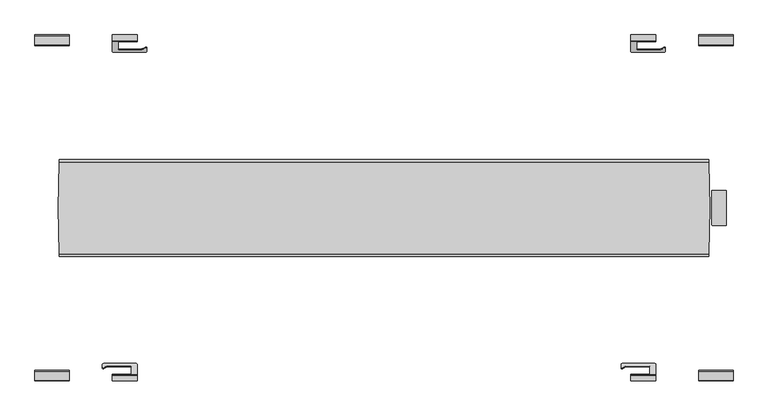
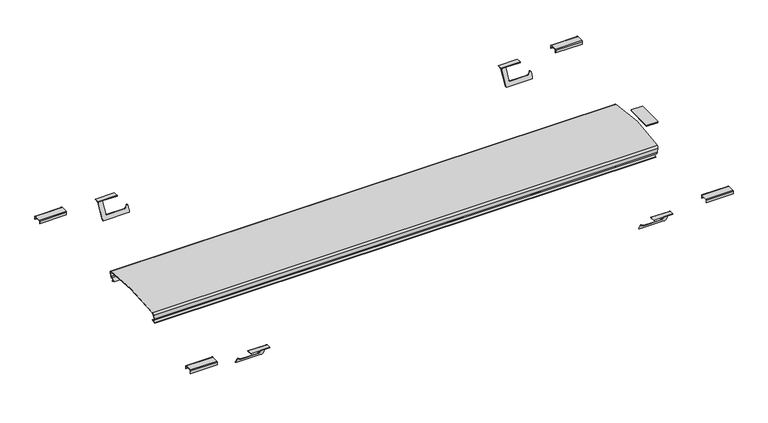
"""IFC4 building model written with IfcOpenShell, lengths in millimetres: light fixture geometry."""

from ifc_helpers import new_model, si_unit, point, frame, frame_2d, origin, origin_with_axes, place, context, project, spatial, polyline, circle_curve, ellipse_curve, trimmed, segment, composite_curve, outline, extrude, source, transform, mapped, element, save
from ifc_brep_helpers import plane_surface, cylinder_surface, revolved_surface, advanced_brep


def light_fixture_a5de5f7d(model_context):
    return source(origin(), model_context, "Body", "SolidModel", [
        extrude(outline(composite_curve([segment(trimmed(circle_curve(frame_2d((593.4860566, 32.8813286)), 0.79375), [point((593.4860566, 33.6750786))], [point((594.2798066, 32.8813286))], False, "CARTESIAN"), True, "CONTINUOUS"), segment(polyline([(594.2798066, 32.8813286), (594.2798066, -25.7936714)]), True, "CONTINUOUS"), segment(trimmed(circle_curve(frame_2d((593.4860566, -25.7936714)), 0.79375), [point((594.2798066, -25.7936714))], [point((593.4860566, -26.5874214))], False, "CARTESIAN"), True, "CONTINUOUS"), segment(polyline([(593.4860566, -26.5874214), (569.7110566, -26.5874214)]), True, "CONTINUOUS"), segment(trimmed(circle_curve(frame_2d((569.7110566, -25.7936714)), 0.79375), [point((569.7110566, -26.5874214))], [point((568.9173066, -25.7936714))], False, "CARTESIAN"), True, "CONTINUOUS"), segment(polyline([(568.9173066, -25.7936714), (568.9173066, 32.8813286)]), True, "CONTINUOUS"), segment(trimmed(circle_curve(frame_2d((569.7110566, 32.8813286)), 0.79375), [point((568.9173066, 32.8813286))], [point((569.7110566, 33.6750786))], False, "CARTESIAN"), True, "CONTINUOUS"), segment(polyline([(569.7110566, 33.6750786), (593.4860566, 33.6750786)]), True, "CONTINUOUS")], self_intersect=False)), origin_with_axes(), (0.0, 0.0, 1.0), 1.984375),
        advanced_brep(
        [(-560.7049594, -78.4782255, -30.5886096), (-561.3946827, -80.5144833, -26.6769947), (-562.975013, -80.5144833, -17.7144962), (-563.7968268, -76.7312326, -13.0537584), (-563.802569, 83.6637386, -13.0211931), (-562.9727304, 87.4855167, -17.7274414), (-561.3743998, 87.4855167, -26.7920248), (-560.6846765, 85.4492589, -30.7036397), (-559.9280968, 79.3213945, -34.9944165), (-559.4545356, 85.9565252, -37.6801157), (-559.2923672, 85.5842575, -38.5998182), (-559.8867318, 77.256535, -35.2290094), (-560.8279867, 84.8801635, -29.8908873), (-561.3743998, 86.4933292, -26.7920248), (-562.9727304, 86.4933292, -17.7274414), (-563.6313431, 83.4601226, -13.9922629), (-563.6256156, -76.5272223, -14.0247455), (-562.975013, -79.5222958, -17.7144962), (-561.3946827, -79.5222958, -26.6769947), (-560.8482696, -77.9091301, -29.7758572), (-559.8867318, -70.1212216, -35.2290094), (-559.2923672, -78.4489441, -38.5998182), (-559.4545356, -78.8212117, -37.6801157), (-559.9280968, -72.186081, -34.9944165), (561.3946827, -80.5144833, -26.6769947), (560.7049594, -78.4782255, -30.5886096), (559.9280968, -72.186081, -34.9944165), (559.4545356, -78.8212117, -37.6801157), (559.2923672, -78.4489441, -38.5998182), (559.8867318, -70.1212216, -35.2290094), (560.8482696, -77.9091301, -29.7758572), (561.3946827, -79.5222958, -26.6769947), (562.975013, -79.5222958, -17.7144962), (563.6256156, -76.5272223, -14.0247455), (563.6313431, 83.4601226, -13.9922629), (562.9727304, 86.4933292, -17.7274414), (561.3743998, 86.4933292, -26.7920248), (560.8279867, 84.8801635, -29.8908873), (559.8867318, 77.256535, -35.2290094), (559.2923672, 85.5842575, -38.5998182), (559.4545356, 85.9565252, -37.6801157), (559.9280968, 79.3213945, -34.9944165), (560.6846765, 85.4492589, -30.7036397), (561.3743998, 87.4855167, -26.7920248), (562.9727304, 87.4855167, -17.7274414), (563.802569, 83.6637386, -13.0211931), (563.7968268, -76.7312326, -13.0537584), (562.975013, -80.5144833, -17.7144962)],
        [
            (0, 1, ellipse_curve(frame((-561.3946827, -75.7392833, -26.6769947), z_axis=(-0.9848077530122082, 0.0, -0.1736481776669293), x_axis=(0.1736481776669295, 0.0, -0.9848077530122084)), 4.8488652, 4.7752)),
            (1, 2),
            (2, 3, ellipse_curve(frame((-562.975013, -75.7519833, -17.7144962), z_axis=(-0.9848077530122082, 0.0, -0.1736481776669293), x_axis=(0.1736481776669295, 0.0, -0.9848077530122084)), 4.8359692, 4.7625)),
            (3, 4, ellipse_curve(frame((-496.4277167, 3.5438286, -395.1229676), z_axis=(-0.9848077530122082, 0.0, -0.1736481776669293), x_axis=(0.1736481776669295, 0.0, -0.9848077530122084)), 396.4340014, 390.4112781)),
            (4, 5, ellipse_curve(frame((-562.9727304, 82.6769225, -17.7274414), z_axis=(-0.9848077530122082, 0.0, -0.1736481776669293), x_axis=(0.1736481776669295, 0.0, -0.9848077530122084)), 4.8827746, 4.8085943)),
            (5, 6),
            (6, 7, ellipse_curve(frame((-561.3743998, 82.7103167, -26.7920248), z_axis=(-0.9848077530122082, 0.0, -0.1736481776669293), x_axis=(0.1736481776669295, 0.0, -0.9848077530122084)), 4.8488652, 4.7752)),
            (7, 8),
            (8, 9),
            (9, 10),
            (10, 11),
            (11, 12),
            (12, 13, ellipse_curve(frame((-561.3743998, 82.7103167, -26.7920248), z_axis=(0.9848077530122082, 0.0, 0.1736481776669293), x_axis=(-0.1736481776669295, 0.0, 0.9848077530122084)), 3.8413716, 3.7830125)),
            (13, 14),
            (14, 15, ellipse_curve(frame((-562.9727304, 82.6769225, -17.7274414), z_axis=(0.9848077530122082, 0.0, 0.1736481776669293), x_axis=(-0.1736481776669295, 0.0, 0.9848077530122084)), 3.875281, 3.8164068)),
            (15, 16, ellipse_curve(frame((-496.4277167, 3.5438286, -395.1229676), z_axis=(0.9848077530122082, 0.0, 0.1736481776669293), x_axis=(-0.1736481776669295, 0.0, 0.9848077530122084)), 395.4265078, 389.4190906)),
            (16, 17, ellipse_curve(frame((-562.975013, -75.7519833, -17.7144962), z_axis=(0.9848077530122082, 0.0, 0.1736481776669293), x_axis=(-0.1736481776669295, 0.0, 0.9848077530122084)), 3.8284756, 3.7703125)),
            (17, 18),
            (18, 19, ellipse_curve(frame((-561.3946827, -75.7392833, -26.6769947), z_axis=(0.9848077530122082, 0.0, 0.1736481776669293), x_axis=(-0.1736481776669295, 0.0, 0.9848077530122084)), 3.8413716, 3.7830125)),
            (19, 20),
            (20, 21),
            (21, 22),
            (22, 23),
            (23, 0),
            (24, 25, ellipse_curve(frame((561.3946827, -75.7392833, -26.6769947), z_axis=(0.9848077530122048, 0.0, -0.17364817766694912), x_axis=(0.17364817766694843, 0.0, 0.9848077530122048)), 4.8488652, 4.7752)),
            (25, 26),
            (26, 27),
            (27, 28),
            (28, 29),
            (29, 30),
            (30, 31, ellipse_curve(frame((561.3946827, -75.7392833, -26.6769947), z_axis=(-0.9848077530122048, 0.0, 0.17364817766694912), x_axis=(-0.17364817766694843, 0.0, -0.9848077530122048)), 3.8413716, 3.7830125)),
            (31, 32),
            (32, 33, ellipse_curve(frame((562.975013, -75.7519833, -17.7144962), z_axis=(-0.9848077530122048, 0.0, 0.17364817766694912), x_axis=(-0.17364817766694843, 0.0, -0.9848077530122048)), 3.8284756, 3.7703125)),
            (33, 34, ellipse_curve(frame((496.4277167, 3.5438286, -395.1229676), z_axis=(-0.9848077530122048, 0.0, 0.17364817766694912), x_axis=(-0.17364817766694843, 0.0, -0.9848077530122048)), 395.4265078, 389.4190906)),
            (34, 35, ellipse_curve(frame((562.9727304, 82.6769225, -17.7274414), z_axis=(-0.9848077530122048, 0.0, 0.17364817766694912), x_axis=(-0.17364817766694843, 0.0, -0.9848077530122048)), 3.875281, 3.8164068)),
            (35, 36),
            (36, 37, ellipse_curve(frame((561.3743998, 82.7103167, -26.7920248), z_axis=(-0.9848077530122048, 0.0, 0.17364817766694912), x_axis=(-0.17364817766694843, 0.0, -0.9848077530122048)), 3.8413716, 3.7830125)),
            (37, 38),
            (38, 39),
            (39, 40),
            (40, 41),
            (41, 42),
            (42, 43, ellipse_curve(frame((561.3743998, 82.7103167, -26.7920248), z_axis=(0.9848077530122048, 0.0, -0.17364817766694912), x_axis=(0.17364817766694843, 0.0, 0.9848077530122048)), 4.8488652, 4.7752)),
            (43, 44),
            (44, 45, ellipse_curve(frame((562.9727304, 82.6769225, -17.7274414), z_axis=(0.9848077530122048, 0.0, -0.17364817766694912), x_axis=(0.17364817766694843, 0.0, 0.9848077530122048)), 4.8827746, 4.8085943)),
            (45, 46, ellipse_curve(frame((496.4277167, 3.5438286, -395.1229676), z_axis=(0.9848077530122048, 0.0, -0.17364817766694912), x_axis=(0.17364817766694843, 0.0, 0.9848077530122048)), 396.4340014, 390.4112781)),
            (46, 47, ellipse_curve(frame((562.975013, -75.7519833, -17.7144962), z_axis=(0.9848077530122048, 0.0, -0.17364817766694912), x_axis=(0.17364817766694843, 0.0, 0.9848077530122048)), 4.8359692, 4.7625)),
            (47, 24),
            (24, 1),
            (0, 25),
            (23, 26),
            (22, 27),
            (21, 28),
            (20, 29),
            (19, 30),
            (18, 31),
            (17, 32),
            (16, 33),
            (15, 34),
            (14, 35),
            (13, 36),
            (12, 37),
            (11, 38),
            (10, 39),
            (9, 40),
            (8, 41),
            (7, 42),
            (6, 43),
            (5, 44),
            (4, 45),
            (3, 46),
            (2, 47),
        ],
        [
            plane_surface(frame((-553.5196929, -297.9323433, -71.3382813), z_axis=(-0.9848077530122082, 0.0, -0.1736481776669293), x_axis=(0.0, 1.0, 0.0))),
            plane_surface(frame((573.6738668, -297.9323433, 42.9617187), z_axis=(0.9848077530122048, 0.0, -0.17364817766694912), x_axis=(0.0, 1.0, 0.0))),
            cylinder_surface(frame((-606.5738281, -75.7392833, -26.6769947), z_axis=(1.0, 0.0, 0.0), x_axis=(0.0, 1.0, 0.0)), 4.7752),
            plane_surface(frame((566.0976563, -78.4782255, -30.5886096), z_axis=(0.0, -0.5735764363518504, -0.8191520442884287), x_axis=(-1.0, 0.0, 0.0))),
            plane_surface(frame((566.0976563, -72.186081, -34.9944165), z_axis=(0.0, -0.3751988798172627, 0.9269443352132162), x_axis=(-1.0, 0.0, 0.0))),
            plane_surface(frame((566.0976563, -78.8212117, -37.6801157), z_axis=(0.0, -0.9269443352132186, -0.37519887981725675), x_axis=(-1.0, 0.0, 0.0))),
            plane_surface(frame((566.0976563, -78.4489441, -38.5998182), z_axis=(0.0, 0.3751988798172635, -0.9269443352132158), x_axis=(-1.0, 0.0, 0.0))),
            plane_surface(frame((566.0976563, -70.1212216, -35.2290094), z_axis=(0.0, 0.5735764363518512, 0.8191520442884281), x_axis=(-1.0, 0.0, 0.0))),
            revolved_surface(polyline([(-562.0617298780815, -71.9562708, -26.6769947), (562.0617298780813, -71.9562708, -26.6769947)]), (-606.5738281, -75.7392833, -26.6769947), (-1.0, 0.0, 0.0)),
            plane_surface(frame((566.0976563, -79.5222958, -26.6769947), z_axis=(0.0, 1.0, 0.0), x_axis=(-1.0, 0.0, 0.0))),
            revolved_surface(polyline([(-563.6398208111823, -71.9816708, -17.7144962), (563.6398208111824, -71.9816708, -17.7144962)]), (-606.5738281, -75.7519833, -17.7144962), (-1.0, 0.0, 0.0)),
            revolved_surface(polyline([(-565.0928091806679, 392.9629192, -395.1229676), (565.0928091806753, 392.9629192, -395.1229676)]), (-606.5738281, 3.5438286, -395.1229676), (-1.0, 0.0, 0.0)),
            revolved_surface(polyline([(-563.6456658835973, 86.4933293, -17.7274414), (563.6456658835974, 86.4933293, -17.7274414)]), (-606.5738281, 82.6769225, -17.7274414), (-1.0, 0.0, 0.0)),
            plane_surface(frame((566.0976563, 86.4933292, -17.7274414), z_axis=(0.0, -1.0, 1.0247541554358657e-12), x_axis=(-1.0, 0.0, 0.0))),
            revolved_surface(polyline([(-562.0414469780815, 86.4933292, -26.7920248), (562.0414469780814, 86.4933292, -26.7920248)]), (-606.5738281, 82.7103167, -26.7920248), (-1.0, 0.0, 0.0)),
            plane_surface(frame((566.0976563, 84.8801635, -29.8908873), z_axis=(0.0, -0.5735764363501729, 0.8191520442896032), x_axis=(-1.0, 0.0, 0.0))),
            plane_surface(frame((566.0976563, 77.256535, -35.2290094), z_axis=(0.0, -0.37519887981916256, -0.9269443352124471), x_axis=(-1.0, 0.0, 0.0))),
            plane_surface(frame((566.0976563, 85.5842575, -38.5998182), z_axis=(0.0, 0.9269443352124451, -0.3751988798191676), x_axis=(-1.0, 0.0, 0.0))),
            plane_surface(frame((566.0976563, 85.9565252, -37.6801157), z_axis=(0.0, 0.37519887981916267, 0.9269443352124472), x_axis=(-1.0, 0.0, 0.0))),
            plane_surface(frame((566.0976563, 79.3213945, -34.9944165), z_axis=(0.0, 0.5735764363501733, -0.819152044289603), x_axis=(-1.0, 0.0, 0.0))),
            cylinder_surface(frame((-606.5738281, 82.7103167, -26.7920248), z_axis=(1.0, 0.0, 0.0), x_axis=(0.0, 1.0, 0.0)), 4.7752),
            plane_surface(frame((566.0976563, 87.4855167, -26.7920248), z_axis=(0.0, 1.0, -1.0247541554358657e-12), x_axis=(-1.0, 0.0, 0.0))),
            cylinder_surface(frame((-606.5738281, 82.6769225, -17.7274414), z_axis=(1.0, 0.0, 0.0), x_axis=(0.0, 1.0, 0.0)), 4.8085943),
            cylinder_surface(frame((-606.5738281, 3.5438286, -395.1229676), z_axis=(1.0, 0.0, 0.0), x_axis=(0.0, 1.0, 0.0)), 390.4112781),
            cylinder_surface(frame((-606.5738281, -75.7519833, -17.7144962), z_axis=(1.0, 0.0, 0.0), x_axis=(0.0, 1.0, 0.0)), 4.7625),
            plane_surface(frame((566.0976563, -80.5144833, -17.7144962), z_axis=(0.0, -1.0, 0.0), x_axis=(-1.0, 0.0, 0.0))),
        ],
        [
            (0, [[1, 2, 3, 4, 5, 6, 7, 8, 9, 10, 11, 12, 13, 14, 15, 16, 17, 18, 19, 20, 21, 22, 23, 24]]),
            (1, [[25, 26, 27, 28, 29, 30, 31, 32, 33, 34, 35, 36, 37, 38, 39, 40, 41, 42, 43, 44, 45, 46, 47, 48]]),
            (2, [[49, -1, 50, -25]]),
            (3, [[-50, -24, 51, -26]]),
            (4, [[-51, -23, 52, -27]]),
            (5, [[-52, -22, 53, -28]]),
            (6, [[-53, -21, 54, -29]]),
            (7, [[-54, -20, 55, -30]]),
            (8, [[-55, -19, 56, -31]]),
            (9, [[-56, -18, 57, -32]]),
            (10, [[-57, -17, 58, -33]]),
            (11, [[-58, -16, 59, -34]]),
            (12, [[-59, -15, 60, -35]]),
            (13, [[-60, -14, 61, -36]]),
            (14, [[-61, -13, 62, -37]]),
            (15, [[-62, -12, 63, -38]]),
            (16, [[-63, -11, 64, -39]]),
            (17, [[-64, -10, 65, -40]]),
            (18, [[-65, -9, 66, -41]]),
            (19, [[-66, -8, 67, -42]]),
            (20, [[-67, -7, 68, -43]]),
            (21, [[-68, -6, 69, -44]]),
            (22, [[-69, -5, 70, -45]]),
            (23, [[-70, -4, 71, -46]]),
            (24, [[-71, -3, 72, -47]]),
            (25, [[-49, -48, -72, -2]]),
        ],
    ),
        advanced_brep(
        [(478.8917139, 279.7314152, -33.398086), (478.8917139, 278.8148717, -33.398086), (483.1855578, 279.9926649, -31.3580883), (483.1855578, 280.9092084, -31.3580883), (485.5308255, 281.6543404, -28.4799818), (485.5308255, 282.570884, -28.4799818), (488.4270722, 281.0593198, -29.5105878), (488.4270722, 281.9758633, -29.5105878), (488.4270722, 275.6987473, -38.7953718), (488.4270722, 276.6152908, -38.7953718), (486.5361116, 273.89967, -41.911465), (484.914104, 274.5870777, -42.30834), (428.4270722, 275.3427686, -39.4119449), (428.4270722, 276.2593122, -39.4119449), (431.3234673, 274.5870777, -42.30834), (429.8600795, 273.89967, -41.911465), (428.4270722, 292.9028585, -8.996977), (428.4270722, 293.9152023, -8.4125), (428.4270722, 304.2262505, -8.4125), (428.4270722, 304.2262505, -9.20625), (428.4270722, 293.6985782, -9.20625), (471.4270722, 304.2262505, -8.4125), (471.4270722, 293.9152023, -8.4125), (471.4270722, 292.9028585, -8.996977), (471.4270722, 292.7820347, -9.20625), (471.4270722, 304.2262505, -9.20625), (438.4270722, 293.6985782, -9.20625), (438.4270722, 292.7820347, -9.20625), (438.4270722, 279.7314152, -31.810586), (438.4270722, 280.6479588, -31.810586), (440.0145722, 278.8148717, -33.398086), (440.0145722, 279.7314152, -33.398086)],
        [
            (0, 1),
            (1, 2, ellipse_curve(frame((478.8917139, 282.012757, -27.8591861), z_axis=(0.0, -0.866025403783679, 0.5000000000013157), x_axis=(0.0, -0.5000000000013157, -0.866025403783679)), 6.3957706, 5.5388999)),
            (2, 3),
            (3, 0, ellipse_curve(frame((478.8917139, 282.9293006, -27.8591861), z_axis=(0.0, 0.8660254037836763, -0.5000000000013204), x_axis=(0.0, -0.5000000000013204, -0.8660254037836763)), 6.3957706, 5.5388999)),
            (2, 4),
            (4, 5),
            (5, 3),
            (4, 6, ellipse_curve(frame((486.7955825, 281.0593198, -29.5105878), z_axis=(0.0, 0.866025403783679, -0.5000000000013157), x_axis=(0.0, 0.5000000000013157, 0.866025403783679)), 1.8838821, 1.6314898)),
            (6, 7),
            (7, 5, ellipse_curve(frame((486.7955825, 281.9758633, -29.5105878), z_axis=(0.0, -0.8660254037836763, 0.5000000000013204), x_axis=(0.0, 0.5000000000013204, 0.8660254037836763)), 1.8838821, 1.6314898)),
            (6, 8),
            (8, 9),
            (9, 7),
            (8, 10, ellipse_curve(frame((484.914104, 275.6987473, -38.7953718), z_axis=(0.0, 0.866025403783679, -0.5000000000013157), x_axis=(0.0, 0.5000000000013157, 0.866025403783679)), 4.0564263, 3.5129682)),
            (10, 11, ellipse_curve(frame((484.914104, 268.5024382, -38.7953718), z_axis=(0.0, 0.5000000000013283, 0.8660254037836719), x_axis=(0.0, 0.8660254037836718, -0.5000000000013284)), 7.0259365, 3.5129682)),
            (11, 9, ellipse_curve(frame((484.914104, 276.6152908, -38.7953718), z_axis=(0.0, -0.8660254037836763, 0.5000000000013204), x_axis=(0.0, 0.5000000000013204, 0.8660254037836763)), 4.0564263, 3.5129682)),
            (12, 13),
            (13, 14, ellipse_curve(frame((431.3234673, 276.2593122, -39.4119449), z_axis=(0.0, -0.8660254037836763, 0.5000000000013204), x_axis=(0.0, 0.5000000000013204, 0.8660254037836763)), 3.344469, 2.8963951)),
            (14, 15, ellipse_curve(frame((431.3234673, 269.5703742, -39.4119449), z_axis=(0.0, 0.5000000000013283, 0.8660254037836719), x_axis=(0.0, 0.8660254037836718, -0.5000000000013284)), 5.7927902, 2.8963951)),
            (15, 12, ellipse_curve(frame((431.3234673, 275.3427686, -39.4119449), z_axis=(0.0, 0.866025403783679, -0.5000000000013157), x_axis=(0.0, 0.5000000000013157, 0.866025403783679)), 3.344469, 2.8963951)),
            (12, 16),
            (16, 17, circle_curve(frame((428.4270722, 293.9152023, -9.5814539), z_axis=(-1.0, 0.0, 0.0), x_axis=(0.0, 1.0, 0.0)), 1.1689539)),
            (17, 18),
            (18, 19),
            (19, 20),
            (20, 13),
            (21, 22),
            (22, 23, circle_curve(frame((471.4270722, 293.9152023, -9.5814539), z_axis=(1.0, 0.0, 0.0), x_axis=(0.0, 1.0, 0.0)), 1.1689539)),
            (23, 24),
            (24, 25),
            (25, 21),
            (26, 27),
            (27, 28),
            (28, 29),
            (29, 26),
            (28, 30, ellipse_curve(frame((440.0145722, 279.7314152, -31.810586), z_axis=(0.0, -0.866025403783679, 0.5000000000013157), x_axis=(0.0, -0.5000000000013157, -0.866025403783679)), 1.8330871, 1.5875)),
            (30, 31),
            (31, 29, ellipse_curve(frame((440.0145722, 280.6479588, -31.810586), z_axis=(0.0, 0.8660254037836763, -0.5000000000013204), x_axis=(0.0, -0.5000000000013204, -0.8660254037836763)), 1.8330871, 1.5875)),
            (0, 31),
            (30, 1),
            (21, 18),
            (17, 22),
            (16, 23),
            (15, 10),
            (27, 24),
            (14, 11),
            (20, 26),
            (19, 25),
        ],
        [
            revolved_surface(polyline([(484.4306138, 278.8148716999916, -27.8591861), (484.4306138, 286.12718590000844, -27.8591861)]), (478.8917139, 3.5438286, -27.8591861), (0.0, -1.0, 0.0)),
            plane_surface(frame((483.1855578, 3.5438286, -31.3580883), z_axis=(-0.7752160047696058, 0.0, 0.631696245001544), x_axis=(0.0, 1.0, 0.0))),
            cylinder_surface(frame((486.7955825, 3.5438286, -29.5105878), z_axis=(0.0, 1.0, 0.0), x_axis=(1.0, 0.0, 0.0)), 1.6314898),
            plane_surface(frame((488.4270722, 3.5438286, -29.5105878), z_axis=(1.0, 0.0, 0.0), x_axis=(0.0, 1.0, 0.0))),
            cylinder_surface(frame((484.914104, 3.5438286, -38.7953718), z_axis=(0.0, 1.0, 0.0), x_axis=(1.0, 0.0, 0.0)), 3.5129682),
            cylinder_surface(frame((431.3234673, 3.5438286, -39.4119449), z_axis=(0.0, 1.0, 0.0), x_axis=(1.0, 0.0, 0.0)), 2.8963951),
            plane_surface(frame((428.4270722, 3.5438286, -39.4119449), z_axis=(-1.0, 0.0, 0.0), x_axis=(0.0, 1.0, 0.0))),
            plane_surface(frame((471.4270722, 3.5438286, -5.4585728), z_axis=(1.0, 0.0, 0.0), x_axis=(0.0, 1.0, 0.0))),
            plane_surface(frame((438.4270722, 3.5438286, -9.20625), z_axis=(1.0, 0.0, 0.0), x_axis=(0.0, 1.0, 0.0))),
            revolved_surface(polyline([(441.60207219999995, 278.8148716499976, -31.810586), (441.60207219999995, 281.56450235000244, -31.810586)]), (440.0145722, 3.5438286, -31.810586), (0.0, -1.0, 0.0)),
            plane_surface(frame((440.0145722, 3.5438286, -33.398086), z_axis=(0.0, 0.0, 1.0), x_axis=(0.0, 1.0, 0.0))),
            plane_surface(frame((491.8820313, 304.2262505, -8.4125), z_axis=(0.0, 0.0, 1.0), x_axis=(-1.0, 0.0, 0.0))),
            cylinder_surface(frame((408.446111, 293.9152023, -9.5814539), z_axis=(1.0, 0.0, 0.0), x_axis=(0.0, 1.0, 0.0)), 1.1689539),
            plane_surface(frame((491.8820313, 292.9028585, -8.996977), z_axis=(0.0, -0.866025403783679, 0.5000000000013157), x_axis=(-1.0, 0.0, 0.0))),
            plane_surface(frame((491.8820313, 273.89967, -41.911465), z_axis=(0.0, -0.5000000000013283, -0.8660254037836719), x_axis=(-1.0, 0.0, 0.0))),
            plane_surface(frame((491.8820313, 274.5870777, -42.30834), z_axis=(0.0, 0.8660254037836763, -0.5000000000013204), x_axis=(-1.0, 0.0, 0.0))),
            plane_surface(frame((491.8820313, 293.6985782, -9.20625), z_axis=(0.0, 0.0, -1.0), x_axis=(-1.0, 0.0, 0.0))),
            plane_surface(frame((491.8820313, 304.2262505, -9.20625), z_axis=(0.0, 1.0, 0.0), x_axis=(-1.0, 0.0, 0.0))),
        ],
        [
            (0, [[1, 2, 3, 4]]),
            (1, [[-3, 5, 6, 7]]),
            (2, [[-6, 8, 9, 10]]),
            (3, [[-9, 11, 12, 13]]),
            (4, [[-12, 14, 15, 16]]),
            (5, [[17, 18, 19, 20]]),
            (6, [[-17, 21, 22, 23, 24, 25, 26]]),
            (7, [[27, 28, 29, 30, 31]]),
            (8, [[32, 33, 34, 35]]),
            (9, [[-34, 36, 37, 38]]),
            (10, [[-1, 39, -37, 40]]),
            (11, [[41, -23, 42, -27]]),
            (12, [[-42, -22, 43, -28]]),
            (13, [[-43, -21, -20, 44, -14, -11, -8, -5, -2, -40, -36, -33, 45, -29]]),
            (14, [[-44, -19, 46, -15]]),
            (15, [[-46, -18, -26, 47, -35, -38, -39, -4, -7, -10, -13, -16]]),
            (16, [[-47, -25, 48, -30, -45, -32]]),
            (17, [[-41, -31, -48, -24]]),
        ],
    ),
        advanced_brep(
        [(471.4270722, -297.1385933, -8.4125), (428.4270722, -297.1385933, -8.4125), (428.4270722, -297.1385933, -9.20625), (471.4270722, -297.1385933, -9.20625), (428.4270722, -285.6943775, -9.20625), (461.4270722, -285.6943775, -9.20625), (461.4270722, -286.610921, -9.20625), (471.4270722, -286.610921, -9.20625), (461.4270722, -273.5603016, -31.810586), (459.8395722, -272.643758, -33.398086), (420.9624305, -272.643758, -33.398086), (416.6685867, -273.8215512, -31.3580883), (414.323319, -275.4832268, -28.4799818), (411.4270722, -274.8882061, -29.5105878), (411.4270722, -269.5276336, -38.7953718), (414.9400405, -267.4994205, -42.30834), (468.5306771, -267.4994205, -42.30834), (471.4270722, -269.171655, -39.4119449), (413.3180328, -266.8120128, -41.911465), (469.9940649, -266.8120128, -41.911465), (411.4270722, -268.6110901, -38.7953718), (411.4270722, -273.9716626, -29.5105878), (414.323319, -274.5666832, -28.4799818), (416.6685867, -272.9050076, -31.3580883), (420.9624305, -271.7272145, -33.398086), (459.8395722, -271.7272145, -33.398086), (461.4270722, -272.643758, -31.810586), (428.4270722, -285.8152013, -8.996977), (471.4270722, -285.8152013, -8.996977), (471.4270722, -268.2551114, -39.4119449), (428.4270722, -286.8275451, -8.4125), (471.4270722, -286.8275451, -8.4125)],
        [
            (0, 1),
            (1, 2),
            (2, 3),
            (3, 0),
            (4, 5),
            (5, 6),
            (6, 7),
            (7, 3),
            (2, 4),
            (6, 8),
            (8, 9, ellipse_curve(frame((459.8395722, -273.5603016, -31.810586), z_axis=(0.0, 0.86602540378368, 0.5000000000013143), x_axis=(0.0, -0.500000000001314, 0.8660254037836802)), 1.8330871, 1.5875)),
            (9, 10),
            (10, 11, ellipse_curve(frame((420.9624305, -275.8416433, -27.8591861), z_axis=(0.0, 0.86602540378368, 0.5000000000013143), x_axis=(0.0, -0.500000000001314, 0.8660254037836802)), 6.3957706, 5.5388999)),
            (11, 12),
            (12, 13, ellipse_curve(frame((413.058562, -274.8882061, -29.5105878), z_axis=(0.0, -0.86602540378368, -0.5000000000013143), x_axis=(0.0, 0.500000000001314, -0.8660254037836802)), 1.8838821, 1.6314898)),
            (13, 14),
            (14, 15, ellipse_curve(frame((414.9400405, -269.5276336, -38.7953718), z_axis=(0.0, -0.86602540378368, -0.5000000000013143), x_axis=(0.0, 0.500000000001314, -0.8660254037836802)), 4.0564263, 3.5129682)),
            (15, 16),
            (16, 17, ellipse_curve(frame((468.5306771, -269.171655, -39.4119449), z_axis=(0.0, -0.86602540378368, -0.5000000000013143), x_axis=(0.0, 0.500000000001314, -0.8660254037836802)), 3.344469, 2.8963951)),
            (17, 7),
            (15, 18, ellipse_curve(frame((414.9400405, -261.414781, -38.7953718), z_axis=(0.0, 0.5000000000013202, -0.8660254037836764), x_axis=(0.0, 0.8660254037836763, 0.50000000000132)), 7.0259365, 3.5129682)),
            (18, 19),
            (19, 16, ellipse_curve(frame((468.5306771, -262.482717, -39.4119449), z_axis=(0.0, 0.5000000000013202, -0.8660254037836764), x_axis=(0.0, 0.8660254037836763, 0.50000000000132)), 5.7927902, 2.8963951)),
            (18, 20, ellipse_curve(frame((414.9400405, -268.6110901, -38.7953718), z_axis=(0.0, 0.8660254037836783, 0.500000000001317), x_axis=(0.0, 0.500000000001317, -0.8660254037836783)), 4.0564263, 3.5129682)),
            (20, 21),
            (21, 22, ellipse_curve(frame((413.058562, -273.9716626, -29.5105878), z_axis=(0.0, 0.8660254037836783, 0.500000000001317), x_axis=(0.0, 0.500000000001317, -0.8660254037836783)), 1.8838821, 1.6314898)),
            (22, 23),
            (23, 24, ellipse_curve(frame((420.9624305, -274.9250998, -27.8591861), z_axis=(0.0, -0.8660254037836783, -0.500000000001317), x_axis=(0.0, -0.500000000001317, 0.8660254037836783)), 6.3957706, 5.5388999)),
            (24, 25),
            (25, 26, ellipse_curve(frame((459.8395722, -272.643758, -31.810586), z_axis=(0.0, -0.8660254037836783, -0.500000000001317), x_axis=(0.0, -0.500000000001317, 0.8660254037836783)), 1.8330871, 1.5875)),
            (26, 5),
            (4, 27),
            (27, 28),
            (28, 29),
            (29, 19, ellipse_curve(frame((468.5306771, -268.2551114, -39.4119449), z_axis=(0.0, 0.8660254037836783, 0.500000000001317), x_axis=(0.0, 0.500000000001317, -0.8660254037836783)), 3.344469, 2.8963951)),
            (27, 30, circle_curve(frame((428.4270722, -286.8275451, -9.5814539), z_axis=(1.0, 0.0, 0.0), x_axis=(0.0, 1.0, 0.0)), 1.1689539)),
            (30, 31),
            (31, 28, circle_curve(frame((471.4270722, -286.8275451, -9.5814539), z_axis=(-1.0, 0.0, 0.0), x_axis=(0.0, 1.0, 0.0)), 1.1689539)),
            (0, 31),
            (30, 1),
            (24, 10),
            (9, 25),
            (8, 26),
            (17, 29),
            (14, 20),
            (13, 21),
            (12, 22),
            (11, 23),
        ],
        [
            plane_surface(frame((491.8820313, -297.1385933, -8.4125), z_axis=(0.0, -1.0, 0.0), x_axis=(-1.0, 0.0, 0.0))),
            plane_surface(frame((491.8820313, -297.1385933, -9.20625), z_axis=(0.0, 0.0, -1.0), x_axis=(-1.0, 0.0, 0.0))),
            plane_surface(frame((491.8820313, -286.610921, -9.20625), z_axis=(0.0, -0.86602540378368, -0.5000000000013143), x_axis=(-1.0, 0.0, 0.0))),
            plane_surface(frame((491.8820313, -267.4994205, -42.30834), z_axis=(0.0, 0.5000000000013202, -0.8660254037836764), x_axis=(-1.0, 0.0, 0.0))),
            plane_surface(frame((491.8820313, -266.8120128, -41.911465), z_axis=(0.0, 0.8660254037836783, 0.500000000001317), x_axis=(-1.0, 0.0, 0.0))),
            cylinder_surface(frame((900.1843365, -286.8275451, -9.5814539), z_axis=(1.0, 0.0, 0.0), x_axis=(0.0, 1.0, 0.0)), 1.1689539),
            plane_surface(frame((491.8820313, -286.8275451, -8.4125), z_axis=(0.0, 0.0, 1.0), x_axis=(-1.0, 0.0, 0.0))),
            plane_surface(frame((420.9624305, -297.9323433, -33.398086), z_axis=(0.0, 0.0, 1.0), x_axis=(0.0, 1.0, 0.0))),
            revolved_surface(polyline([(461.4270722, -274.4768451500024, -31.810586), (461.4270722, -271.7272144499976, -31.810586)]), (459.8395722, 3.5438286, -31.810586), (0.0, -1.0, 0.0)),
            plane_surface(frame((461.4270722, -297.9323433, -31.810586), z_axis=(-1.0, 0.0, 0.0), x_axis=(0.0, 1.0, 0.0))),
            plane_surface(frame((428.4270722, -297.9323433, -9.20625), z_axis=(-1.0, 0.0, 0.0), x_axis=(0.0, 1.0, 0.0))),
            plane_surface(frame((471.4270722, -297.9323433, -5.4585728), z_axis=(1.0, 0.0, 0.0), x_axis=(0.0, 1.0, 0.0))),
            cylinder_surface(frame((468.5306771, 3.5438286, -39.4119449), z_axis=(0.0, 1.0, 0.0), x_axis=(1.0, 0.0, 0.0)), 2.8963951),
            cylinder_surface(frame((414.9400405, 3.5438286, -38.7953718), z_axis=(0.0, 1.0, 0.0), x_axis=(1.0, 0.0, 0.0)), 3.5129682),
            plane_surface(frame((411.4270722, -297.9323433, -38.7953718), z_axis=(-1.0, 0.0, 0.0), x_axis=(0.0, 1.0, 0.0))),
            cylinder_surface(frame((413.058562, 3.5438286, -29.5105878), z_axis=(0.0, 1.0, 0.0), x_axis=(1.0, 0.0, 0.0)), 1.6314898),
            plane_surface(frame((414.323319, -297.9323433, -28.4799818), z_axis=(0.7752160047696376, 0.0, 0.6316962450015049), x_axis=(0.0, 1.0, 0.0))),
            revolved_surface(polyline([(426.5013304, -279.0395286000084, -27.8591861), (426.5013304, -271.7272144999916, -27.8591861)]), (420.9624305, 3.5438286, -27.8591861), (0.0, -1.0, 0.0)),
        ],
        [
            (0, [[1, 2, 3, 4]]),
            (1, [[5, 6, 7, 8, -3, 9]]),
            (2, [[-7, 10, 11, 12, 13, 14, 15, 16, 17, 18, 19, 20]]),
            (3, [[-18, 21, 22, 23]]),
            (4, [[-22, 24, 25, 26, 27, 28, 29, 30, 31, -5, 32, 33, 34, 35]]),
            (5, [[-33, 36, 37, 38]]),
            (6, [[-1, 39, -37, 40]]),
            (7, [[41, -12, 42, -29]]),
            (8, [[-42, -11, 43, -30]]),
            (9, [[-43, -10, -6, -31]]),
            (10, [[-9, -2, -40, -36, -32]]),
            (11, [[44, -34, -38, -39, -4, -8, -20]]),
            (12, [[-44, -19, -23, -35]]),
            (13, [[45, -24, -21, -17]]),
            (14, [[-45, -16, 46, -25]]),
            (15, [[-46, -15, 47, -26]]),
            (16, [[-47, -14, 48, -27]]),
            (17, [[-41, -28, -48, -13]]),
        ],
    ),
        advanced_brep(
        [(-479.0375695, -271.7272145, -33.398086), (-479.0375695, -272.643758, -33.398086), (-440.1604278, -272.643758, -33.398086), (-440.1604278, -271.7272145, -33.398086), (-438.5729278, -273.5603016, -31.810586), (-438.5729278, -272.643758, -31.810586), (-438.5729278, -286.610921, -9.20625), (-438.5729278, -285.6943775, -9.20625), (-428.5729278, -269.171655, -39.4119449), (-428.5729278, -268.2551114, -39.4119449), (-428.5729278, -285.8152013, -8.996977), (-428.5729278, -286.8275451, -8.4125), (-428.5729278, -297.1385933, -8.4125), (-428.5729278, -297.1385933, -9.20625), (-428.5729278, -286.610921, -9.20625), (-431.4693229, -267.4994205, -42.30834), (-430.0059351, -266.8120128, -41.911465), (-488.5729278, -269.5276336, -38.7953718), (-488.5729278, -268.6110901, -38.7953718), (-486.6819672, -266.8120128, -41.911465), (-485.0599595, -267.4994205, -42.30834), (-488.5729278, -274.8882061, -29.5105878), (-488.5729278, -273.9716626, -29.5105878), (-485.676681, -275.4832268, -28.4799818), (-485.676681, -274.5666832, -28.4799818), (-483.3314133, -273.8215512, -31.3580883), (-483.3314133, -272.9050076, -31.3580883), (-471.5729278, -297.1385933, -9.20625), (-471.5729278, -297.1385933, -8.4125), (-471.5729278, -286.8275451, -8.4125), (-471.5729278, -285.8152013, -8.996977), (-471.5729278, -285.6943775, -9.20625)],
        [
            (0, 1),
            (1, 2),
            (2, 3),
            (3, 0),
            (2, 4, ellipse_curve(frame((-440.1604278, -273.5603016, -31.810586), z_axis=(0.0, -0.8660254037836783, -0.5000000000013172), x_axis=(0.0, -0.5000000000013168, 0.8660254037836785)), 1.8330871, 1.5875)),
            (4, 5),
            (5, 3, ellipse_curve(frame((-440.1604278, -272.643758, -31.810586), z_axis=(0.0, 0.8660254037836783, 0.500000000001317), x_axis=(0.0, -0.500000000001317, 0.8660254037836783)), 1.8330871, 1.5875)),
            (4, 6),
            (6, 7),
            (7, 5),
            (8, 9),
            (9, 10),
            (10, 11, circle_curve(frame((-428.5729278, -286.8275451, -9.5814539), z_axis=(1.0, 0.0, 0.0), x_axis=(0.0, 1.0, 0.0)), 1.1689539)),
            (11, 12),
            (12, 13),
            (13, 14),
            (14, 8),
            (8, 15, ellipse_curve(frame((-431.4693229, -269.171655, -39.4119449), z_axis=(0.0, 0.8660254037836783, 0.5000000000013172), x_axis=(0.0, 0.5000000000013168, -0.8660254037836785)), 3.344469, 2.8963951)),
            (15, 16, ellipse_curve(frame((-431.4693229, -262.482717, -39.4119449), z_axis=(0.0, -0.5000000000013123, 0.8660254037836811), x_axis=(0.0, 0.866025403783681, 0.5000000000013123)), 5.7927902, 2.8963951)),
            (16, 9, ellipse_curve(frame((-431.4693229, -268.2551114, -39.4119449), z_axis=(0.0, -0.8660254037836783, -0.500000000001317), x_axis=(0.0, 0.500000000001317, -0.8660254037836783)), 3.344469, 2.8963951)),
            (17, 18),
            (18, 19, ellipse_curve(frame((-485.0599595, -268.6110901, -38.7953718), z_axis=(0.0, -0.8660254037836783, -0.500000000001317), x_axis=(0.0, 0.500000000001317, -0.8660254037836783)), 4.0564263, 3.5129682)),
            (19, 20, ellipse_curve(frame((-485.0599595, -261.414781, -38.7953718), z_axis=(0.0, -0.5000000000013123, 0.8660254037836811), x_axis=(0.0, 0.866025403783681, 0.5000000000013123)), 7.0259365, 3.5129682)),
            (20, 17, ellipse_curve(frame((-485.0599595, -269.5276336, -38.7953718), z_axis=(0.0, 0.8660254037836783, 0.5000000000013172), x_axis=(0.0, 0.5000000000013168, -0.8660254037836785)), 4.0564263, 3.5129682)),
            (17, 21),
            (21, 22),
            (22, 18),
            (21, 23, ellipse_curve(frame((-486.941438, -274.8882061, -29.5105878), z_axis=(0.0, 0.8660254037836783, 0.5000000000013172), x_axis=(0.0, 0.5000000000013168, -0.8660254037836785)), 1.8838821, 1.6314898)),
            (23, 24),
            (24, 22, ellipse_curve(frame((-486.941438, -273.9716626, -29.5105878), z_axis=(0.0, -0.8660254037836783, -0.500000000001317), x_axis=(0.0, 0.500000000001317, -0.8660254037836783)), 1.8838821, 1.6314898)),
            (23, 25),
            (25, 26),
            (26, 24),
            (0, 26, ellipse_curve(frame((-479.0375695, -274.9250998, -27.8591861), z_axis=(0.0, 0.8660254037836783, 0.500000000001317), x_axis=(0.0, -0.500000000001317, 0.8660254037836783)), 6.3957706, 5.5388999)),
            (25, 1, ellipse_curve(frame((-479.0375695, -275.8416433, -27.8591861), z_axis=(0.0, -0.8660254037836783, -0.5000000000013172), x_axis=(0.0, -0.5000000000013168, 0.8660254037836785)), 6.3957706, 5.5388999)),
            (27, 28),
            (28, 29),
            (29, 30, circle_curve(frame((-471.5729278, -286.8275451, -9.5814539), z_axis=(-1.0, 0.0, 0.0), x_axis=(0.0, 1.0, 0.0)), 1.1689539)),
            (30, 31),
            (31, 27),
            (12, 28),
            (27, 13),
            (6, 14),
            (31, 7),
            (20, 15),
            (19, 16),
            (30, 10),
            (29, 11),
        ],
        [
            plane_surface(frame((-479.0375695, -297.9323433, -33.398086), z_axis=(0.0, 0.0, 1.0), x_axis=(0.0, 1.0, 0.0))),
            revolved_surface(polyline([(-438.5729278, -274.4768451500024, -31.810586), (-438.5729278, -271.7272144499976, -31.810586)]), (-440.1604278, 3.5438286, -31.810586), (0.0, -1.0, 0.0)),
            plane_surface(frame((-438.5729278, -297.9323433, -31.810586), z_axis=(-1.0, 0.0, 0.0), x_axis=(0.0, 1.0, 0.0))),
            plane_surface(frame((-428.5729278, -297.9323433, -5.4585728), z_axis=(1.0, 0.0, 0.0), x_axis=(0.0, 1.0, 0.0))),
            cylinder_surface(frame((-431.4693229, 3.5438286, -39.4119449), z_axis=(0.0, 1.0, 0.0), x_axis=(1.0, 0.0, 0.0)), 2.8963951),
            cylinder_surface(frame((-485.0599595, 3.5438286, -38.7953718), z_axis=(0.0, 1.0, 0.0), x_axis=(1.0, 0.0, 0.0)), 3.5129682),
            plane_surface(frame((-488.5729278, -297.9323433, -38.7953718), z_axis=(-1.0, 0.0, 0.0), x_axis=(0.0, 1.0, 0.0))),
            cylinder_surface(frame((-486.941438, 3.5438286, -29.5105878), z_axis=(0.0, 1.0, 0.0), x_axis=(1.0, 0.0, 0.0)), 1.6314898),
            plane_surface(frame((-485.676681, -297.9323433, -28.4799818), z_axis=(0.7752160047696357, 0.0, 0.6316962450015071), x_axis=(0.0, 1.0, 0.0))),
            revolved_surface(polyline([(-473.4986696, -279.0395286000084, -27.8591861), (-473.4986696, -271.7272144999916, -27.8591861)]), (-479.0375695, 3.5438286, -27.8591861), (0.0, -1.0, 0.0)),
            plane_surface(frame((-471.5729278, -297.9323433, -9.20625), z_axis=(-1.0, 0.0, 0.0), x_axis=(0.0, 1.0, 0.0))),
            plane_surface(frame((-408.3023052, -297.1385933, -8.4125), z_axis=(0.0, -1.0, 0.0), x_axis=(-1.0, 0.0, 0.0))),
            plane_surface(frame((-408.3023052, -297.1385933, -9.20625), z_axis=(0.0, 0.0, -1.0), x_axis=(-1.0, 0.0, 0.0))),
            plane_surface(frame((-408.3023052, -286.610921, -9.20625), z_axis=(0.0, -0.8660254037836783, -0.5000000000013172), x_axis=(-1.0, 0.0, 0.0))),
            plane_surface(frame((-408.3023052, -267.4994205, -42.30834), z_axis=(0.0, 0.5000000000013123, -0.8660254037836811), x_axis=(-1.0, 0.0, 0.0))),
            plane_surface(frame((-408.3023052, -266.8120128, -41.911465), z_axis=(0.0, 0.8660254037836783, 0.500000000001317), x_axis=(-1.0, 0.0, 0.0))),
            cylinder_surface(frame((0.0, -286.8275451, -9.5814539), z_axis=(1.0, 0.0, 0.0), x_axis=(0.0, 1.0, 0.0)), 1.1689539),
            plane_surface(frame((-408.3023052, -286.8275451, -8.4125), z_axis=(0.0, 0.0, 1.0), x_axis=(-1.0, 0.0, 0.0))),
        ],
        [
            (0, [[1, 2, 3, 4]]),
            (1, [[-3, 5, 6, 7]]),
            (2, [[-6, 8, 9, 10]]),
            (3, [[11, 12, 13, 14, 15, 16, 17]]),
            (4, [[-11, 18, 19, 20]]),
            (5, [[21, 22, 23, 24]]),
            (6, [[-21, 25, 26, 27]]),
            (7, [[-26, 28, 29, 30]]),
            (8, [[-29, 31, 32, 33]]),
            (9, [[-1, 34, -32, 35]]),
            (10, [[36, 37, 38, 39, 40]]),
            (11, [[41, -36, 42, -15]]),
            (12, [[43, -16, -42, -40, 44, -9]]),
            (13, [[-43, -8, -5, -2, -35, -31, -28, -25, -24, 45, -18, -17]]),
            (14, [[-45, -23, 46, -19]]),
            (15, [[-46, -22, -27, -30, -33, -34, -4, -7, -10, -44, -39, 47, -12, -20]]),
            (16, [[-47, -38, 48, -13]]),
            (17, [[-41, -14, -48, -37]]),
        ],
    ),
        advanced_brep(
        [(-421.1082861, 279.7314152, -33.398086), (-421.1082861, 278.8148717, -33.398086), (-416.8144422, 279.9926649, -31.3580883), (-416.8144422, 280.9092084, -31.3580883), (-414.4691745, 281.6543404, -28.4799818), (-414.4691745, 282.570884, -28.4799818), (-411.5729278, 281.0593198, -29.5105878), (-411.5729278, 281.9758633, -29.5105878), (-411.5729278, 275.6987473, -38.7953718), (-411.5729278, 276.6152908, -38.7953718), (-413.4638884, 273.89967, -41.911465), (-415.085896, 274.5870777, -42.30834), (-471.5729278, 275.3427686, -39.4119449), (-471.5729278, 276.2593122, -39.4119449), (-468.6765327, 274.5870777, -42.30834), (-470.1399205, 273.89967, -41.911465), (-471.5729278, 292.9028585, -8.996977), (-471.5729278, 293.9152023, -8.4125), (-471.5729278, 304.2262505, -8.4125), (-471.5729278, 304.2262505, -9.20625), (-471.5729278, 293.6985782, -9.20625), (-428.5729278, 292.7820347, -9.20625), (-428.5729278, 304.2262505, -9.20625), (-428.5729278, 304.2262505, -8.4125), (-428.5729278, 293.9152023, -8.4125), (-428.5729278, 292.9028585, -8.996977), (-461.5729278, 293.6985782, -9.20625), (-461.5729278, 292.7820347, -9.20625), (-461.5729278, 279.7314152, -31.810586), (-461.5729278, 280.6479588, -31.810586), (-459.9854278, 278.8148717, -33.398086), (-459.9854278, 279.7314152, -33.398086)],
        [
            (0, 1),
            (1, 2, ellipse_curve(frame((-421.1082861, 282.012757, -27.8591861), z_axis=(0.0, -0.8660254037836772, 0.5000000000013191), x_axis=(0.0, -0.5000000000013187, -0.8660254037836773)), 6.3957706, 5.5388999)),
            (2, 3),
            (3, 0, ellipse_curve(frame((-421.1082861, 282.9293006, -27.8591861), z_axis=(0.0, 0.8660254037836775, -0.5000000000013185), x_axis=(0.0, -0.5000000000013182, -0.8660254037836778)), 6.3957706, 5.5388999)),
            (2, 4),
            (4, 5),
            (5, 3),
            (4, 6, ellipse_curve(frame((-413.2044175, 281.0593198, -29.5105878), z_axis=(0.0, 0.8660254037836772, -0.5000000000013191), x_axis=(0.0, 0.5000000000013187, 0.8660254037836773)), 1.8838821, 1.6314898)),
            (6, 7),
            (7, 5, ellipse_curve(frame((-413.2044175, 281.9758633, -29.5105878), z_axis=(0.0, -0.8660254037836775, 0.5000000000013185), x_axis=(0.0, 0.5000000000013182, 0.8660254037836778)), 1.8838821, 1.6314898)),
            (6, 8),
            (8, 9),
            (9, 7),
            (8, 10, ellipse_curve(frame((-415.085896, 275.6987473, -38.7953718), z_axis=(0.0, 0.8660254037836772, -0.5000000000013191), x_axis=(0.0, 0.5000000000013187, 0.8660254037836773)), 4.0564263, 3.5129682)),
            (10, 11, ellipse_curve(frame((-415.085896, 268.5024382, -38.7953718), z_axis=(0.0, 0.5000000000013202, 0.8660254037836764), x_axis=(0.0, 0.8660254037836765, -0.5000000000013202)), 7.0259365, 3.5129682)),
            (11, 9, ellipse_curve(frame((-415.085896, 276.6152908, -38.7953718), z_axis=(0.0, -0.8660254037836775, 0.5000000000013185), x_axis=(0.0, 0.5000000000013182, 0.8660254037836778)), 4.0564263, 3.5129682)),
            (12, 13),
            (13, 14, ellipse_curve(frame((-468.6765327, 276.2593122, -39.4119449), z_axis=(0.0, -0.8660254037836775, 0.5000000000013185), x_axis=(0.0, 0.5000000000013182, 0.8660254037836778)), 3.344469, 2.8963951)),
            (14, 15, ellipse_curve(frame((-468.6765327, 269.5703742, -39.4119449), z_axis=(0.0, 0.5000000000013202, 0.8660254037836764), x_axis=(0.0, 0.8660254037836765, -0.5000000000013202)), 5.7927902, 2.8963951)),
            (15, 12, ellipse_curve(frame((-468.6765327, 275.3427686, -39.4119449), z_axis=(0.0, 0.8660254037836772, -0.5000000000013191), x_axis=(0.0, 0.5000000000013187, 0.8660254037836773)), 3.344469, 2.8963951)),
            (12, 16),
            (16, 17, circle_curve(frame((-471.5729278, 293.9152023, -9.5814539), z_axis=(-1.0, 0.0, 0.0), x_axis=(0.0, 1.0, 0.0)), 1.1689539)),
            (17, 18),
            (18, 19),
            (19, 20),
            (20, 13),
            (21, 22),
            (22, 23),
            (23, 24),
            (24, 25, circle_curve(frame((-428.5729278, 293.9152023, -9.5814539), z_axis=(1.0, 0.0, 0.0), x_axis=(0.0, 1.0, 0.0)), 1.1689539)),
            (25, 21),
            (26, 27),
            (27, 28),
            (28, 29),
            (29, 26),
            (28, 30, ellipse_curve(frame((-459.9854278, 279.7314152, -31.810586), z_axis=(0.0, -0.8660254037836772, 0.5000000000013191), x_axis=(0.0, -0.5000000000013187, -0.8660254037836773)), 1.8330871, 1.5875)),
            (30, 31),
            (31, 29, ellipse_curve(frame((-459.9854278, 280.6479588, -31.810586), z_axis=(0.0, 0.8660254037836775, -0.5000000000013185), x_axis=(0.0, -0.5000000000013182, -0.8660254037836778)), 1.8330871, 1.5875)),
            (0, 31),
            (30, 1),
            (23, 18),
            (17, 24),
            (16, 25),
            (15, 10),
            (27, 21),
            (14, 11),
            (20, 26),
            (19, 22),
        ],
        [
            revolved_surface(polyline([(-415.5693862, 278.8148716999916, -27.8591861), (-415.5693862, 286.1271859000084, -27.8591861)]), (-421.1082861, 305.0200005, -27.8591861), (0.0, -1.0, 0.0)),
            plane_surface(frame((-416.8144422, 3.5438286, -31.3580883), z_axis=(-0.7752160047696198, 0.0, 0.6316962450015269), x_axis=(0.0, 1.0, 0.0))),
            cylinder_surface(frame((-413.2044175, 305.0200005, -29.5105878), z_axis=(0.0, 1.0, 0.0), x_axis=(1.0, 0.0, 0.0)), 1.6314898),
            plane_surface(frame((-411.5729278, 3.5438286, -29.5105878), z_axis=(1.0, 0.0, 0.0), x_axis=(0.0, 1.0, 0.0))),
            cylinder_surface(frame((-415.085896, 305.0200005, -38.7953718), z_axis=(0.0, 1.0, 0.0), x_axis=(1.0, 0.0, 0.0)), 3.5129682),
            cylinder_surface(frame((-468.6765327, 305.0200005, -39.4119449), z_axis=(0.0, 1.0, 0.0), x_axis=(1.0, 0.0, 0.0)), 2.8963951),
            plane_surface(frame((-471.5729278, 3.5438286, -39.4119449), z_axis=(-1.0, 0.0, 0.0), x_axis=(0.0, 1.0, 0.0))),
            plane_surface(frame((-428.5729278, 3.5438286, -5.4585728), z_axis=(1.0, 0.0, 0.0), x_axis=(0.0, 1.0, 0.0))),
            plane_surface(frame((-461.5729278, 3.5438286, -9.20625), z_axis=(1.0, 0.0, 0.0), x_axis=(0.0, 1.0, 0.0))),
            revolved_surface(polyline([(-458.39792780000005, 278.8148716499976, -31.810586), (-458.39792780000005, 281.56450235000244, -31.810586)]), (-459.9854278, 305.0200005, -31.810586), (0.0, -1.0, 0.0)),
            plane_surface(frame((-459.9854278, 3.5438286, -33.398086), z_axis=(0.0, 0.0, 1.0), x_axis=(0.0, 1.0, 0.0))),
            plane_surface(frame((-408.3023052, 304.2262505, -8.4125), z_axis=(0.0, 0.0, 1.0), x_axis=(-1.0, 0.0, 0.0))),
            cylinder_surface(frame((-491.7382255, 293.9152023, -9.5814539), z_axis=(1.0, 0.0, 0.0), x_axis=(0.0, 1.0, 0.0)), 1.1689539),
            plane_surface(frame((-408.3023052, 292.9028585, -8.996977), z_axis=(0.0, -0.8660254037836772, 0.5000000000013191), x_axis=(-1.0, 0.0, 0.0))),
            plane_surface(frame((-408.3023052, 273.89967, -41.911465), z_axis=(0.0, -0.5000000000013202, -0.8660254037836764), x_axis=(-1.0, 0.0, 0.0))),
            plane_surface(frame((-408.3023052, 274.5870777, -42.30834), z_axis=(0.0, 0.8660254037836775, -0.5000000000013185), x_axis=(-1.0, 0.0, 0.0))),
            plane_surface(frame((-408.3023052, 293.6985782, -9.20625), z_axis=(0.0, 0.0, -1.0), x_axis=(-1.0, 0.0, 0.0))),
            plane_surface(frame((-408.3023052, 304.2262505, -9.20625), z_axis=(0.0, 1.0, 0.0), x_axis=(-1.0, 0.0, 0.0))),
        ],
        [
            (0, [[1, 2, 3, 4]]),
            (1, [[-3, 5, 6, 7]]),
            (2, [[-6, 8, 9, 10]]),
            (3, [[-9, 11, 12, 13]]),
            (4, [[-12, 14, 15, 16]]),
            (5, [[17, 18, 19, 20]]),
            (6, [[-17, 21, 22, 23, 24, 25, 26]]),
            (7, [[27, 28, 29, 30, 31]]),
            (8, [[32, 33, 34, 35]]),
            (9, [[-34, 36, 37, 38]]),
            (10, [[-1, 39, -37, 40]]),
            (11, [[41, -23, 42, -29]]),
            (12, [[-42, -22, 43, -30]]),
            (13, [[-43, -21, -20, 44, -14, -11, -8, -5, -2, -40, -36, -33, 45, -31]]),
            (14, [[-44, -19, 46, -15]]),
            (15, [[-46, -18, -26, 47, -35, -38, -39, -4, -7, -10, -13, -16]]),
            (16, [[-47, -25, 48, -27, -45, -32]]),
            (17, [[-41, -28, -48, -24]]),
        ],
    ),
        extrude(outline(composite_curve([segment(trimmed(circle_curve(frame_2d((302.6387505, -2.38125)), 0.79375), [point((303.4325005, -2.38125))], [point((302.6387505, -1.5875))], True, "CARTESIAN"), True, "CONTINUOUS"), segment(polyline([(302.6387505, -1.5875), (287.1551567, -1.5875)]), True, "CONTINUOUS"), segment(trimmed(circle_curve(frame_2d((287.1551567, -2.38125)), 0.79375), [point((287.1551567, -1.5875))], [point((286.3614067, -2.38125))], True, "CARTESIAN"), True, "CONTINUOUS"), segment(polyline([(286.3614067, -2.38125), (286.3614067, -8.5), (285.5676567, -8.5), (285.5676567, -2.38125)]), True, "CONTINUOUS"), segment(trimmed(circle_curve(frame_2d((287.1551567, -2.38125)), 1.5875), [point((285.5676567, -2.38125))], [point((287.1551567, -0.79375))], False, "CARTESIAN"), True, "CONTINUOUS"), segment(polyline([(287.1551567, -0.79375), (302.6387505, -0.79375)]), True, "CONTINUOUS"), segment(trimmed(circle_curve(frame_2d((302.6387505, -2.38125)), 1.5875), [point((302.6387505, -0.79375))], [point((304.2262505, -2.38125))], False, "CARTESIAN"), True, "CONTINUOUS"), segment(polyline([(304.2262505, -2.38125), (304.2262505, -8.5), (303.4325005, -8.5), (303.4325005, -2.38125)]), True, "CONTINUOUS")], self_intersect=False)), frame((-605.7800781, 0.0, 0.0), z_axis=(1.0, 0.0, 0.0), x_axis=(0.0, 1.0, 0.0)), (0.0, 0.0, 1.0), 59.6824219),
        extrude(outline(composite_curve([segment(polyline([(-278.4799995, -8.5), (-279.2737495, -8.5), (-279.2737495, -2.38125)]), True, "CONTINUOUS"), segment(trimmed(circle_curve(frame_2d((-280.0674995, -2.38125)), 0.79375), [point((-279.2737495, -2.38125))], [point((-280.0674995, -1.5875))], True, "CARTESIAN"), True, "CONTINUOUS"), segment(polyline([(-280.0674995, -1.5875), (-295.5510933, -1.5875)]), True, "CONTINUOUS"), segment(trimmed(circle_curve(frame_2d((-295.5510933, -2.38125)), 0.79375), [point((-295.5510933, -1.5875))], [point((-296.3448433, -2.38125))], True, "CARTESIAN"), True, "CONTINUOUS"), segment(polyline([(-296.3448433, -2.38125), (-296.3448433, -8.5), (-297.1385933, -8.5), (-297.1385933, -2.38125)]), True, "CONTINUOUS"), segment(trimmed(circle_curve(frame_2d((-295.5510933, -2.38125)), 1.5875), [point((-297.1385933, -2.38125))], [point((-295.5510933, -0.79375))], False, "CARTESIAN"), True, "CONTINUOUS"), segment(polyline([(-295.5510933, -0.79375), (-280.0674995, -0.79375)]), True, "CONTINUOUS"), segment(trimmed(circle_curve(frame_2d((-280.0674995, -2.38125)), 1.5875), [point((-280.0674995, -0.79375))], [point((-278.4799995, -2.38125))], False, "CARTESIAN"), True, "CONTINUOUS"), segment(polyline([(-278.4799995, -2.38125), (-278.4799995, -8.5)]), True, "CONTINUOUS")], self_intersect=False)), frame((-605.7800781, 0.0, 0.0), z_axis=(1.0, 0.0, 0.0), x_axis=(0.0, 1.0, 0.0)), (0.0, 0.0, 1.0), 59.6824219),
        extrude(outline(composite_curve([segment(polyline([(285.5676567, -8.5), (285.5676567, -2.38125)]), True, "CONTINUOUS"), segment(trimmed(circle_curve(frame_2d((287.1551567, -2.38125)), 1.5875), [point((285.5676567, -2.38125))], [point((287.1551567, -0.79375))], False, "CARTESIAN"), True, "CONTINUOUS"), segment(polyline([(287.1551567, -0.79375), (302.6387505, -0.79375)]), True, "CONTINUOUS"), segment(trimmed(circle_curve(frame_2d((302.6387505, -2.38125)), 1.5875), [point((302.6387505, -0.79375))], [point((304.2262505, -2.38125))], False, "CARTESIAN"), True, "CONTINUOUS"), segment(polyline([(304.2262505, -2.38125), (304.2262505, -8.5), (303.4325005, -8.5), (303.4325005, -2.38125)]), True, "CONTINUOUS"), segment(trimmed(circle_curve(frame_2d((302.6387505, -2.38125)), 0.79375), [point((303.4325005, -2.38125))], [point((302.6387505, -1.5875))], True, "CARTESIAN"), True, "CONTINUOUS"), segment(polyline([(302.6387505, -1.5875), (287.1551567, -1.5875)]), True, "CONTINUOUS"), segment(trimmed(circle_curve(frame_2d((287.1551567, -2.38125)), 0.79375), [point((287.1551567, -1.5875))], [point((286.3614067, -2.38125))], True, "CARTESIAN"), True, "CONTINUOUS"), segment(polyline([(286.3614067, -2.38125), (286.3614067, -8.5), (285.5676567, -8.5)]), True, "CONTINUOUS")], self_intersect=False)), frame((546.0976563, 0.0, 0.0), z_axis=(1.0, 0.0, 0.0), x_axis=(0.0, 1.0, 0.0)), (0.0, 0.0, 1.0), 59.6824219),
        extrude(outline(composite_curve([segment(polyline([(-278.4799995, -8.5), (-279.2737495, -8.5), (-279.2737495, -2.38125)]), True, "CONTINUOUS"), segment(trimmed(circle_curve(frame_2d((-280.0674995, -2.38125)), 0.79375), [point((-279.2737495, -2.38125))], [point((-280.0674995, -1.5875))], True, "CARTESIAN"), True, "CONTINUOUS"), segment(polyline([(-280.0674995, -1.5875), (-295.5510933, -1.5875)]), True, "CONTINUOUS"), segment(trimmed(circle_curve(frame_2d((-295.5510933, -2.38125)), 0.79375), [point((-295.5510933, -1.5875))], [point((-296.3448433, -2.38125))], True, "CARTESIAN"), True, "CONTINUOUS"), segment(polyline([(-296.3448433, -2.38125), (-296.3448433, -8.5), (-297.1385933, -8.5), (-297.1385933, -2.38125)]), True, "CONTINUOUS"), segment(trimmed(circle_curve(frame_2d((-295.5510933, -2.38125)), 1.5875), [point((-297.1385933, -2.38125))], [point((-295.5510933, -0.79375))], False, "CARTESIAN"), True, "CONTINUOUS"), segment(polyline([(-295.5510933, -0.79375), (-280.0674995, -0.79375)]), True, "CONTINUOUS"), segment(trimmed(circle_curve(frame_2d((-280.0674995, -2.38125)), 1.5875), [point((-280.0674995, -0.79375))], [point((-278.4799995, -2.38125))], False, "CARTESIAN"), True, "CONTINUOUS"), segment(polyline([(-278.4799995, -2.38125), (-278.4799995, -8.5)]), True, "CONTINUOUS")], self_intersect=False)), frame((546.0976563, 0.0, 0.0), z_axis=(1.0, 0.0, 0.0), x_axis=(0.0, 1.0, 0.0)), (0.0, 0.0, 1.0), 59.6824219),
    ])


if __name__ == "__main__":
    model = new_model("IFC4")
    model_context = context("Model", 3, world=origin())
    ifc_project = project(units=[si_unit("LENGTHUNIT", "METRE", prefix="MILLI")], contexts=[model_context])
    site = spatial("IfcSite", under=ifc_project)
    building = spatial("IfcBuilding", under=site)
    placement = place(None, origin())
    light_fixture_shape = light_fixture_a5de5f7d(model_context)
    element("IfcLightFixture", 1, at=placement, inside=building, context=model_context, shape_type="MappedRepresentation", body=[
        mapped(light_fixture_shape, transform((0.0, 0.0, 0.0), x_axis=(1.0, 0.0, 0.0), y_axis=(0.0, 1.0, 0.0), z_axis=(0.0, 0.0, 1.0))),
    ])
    save(model, "model.ifc")
